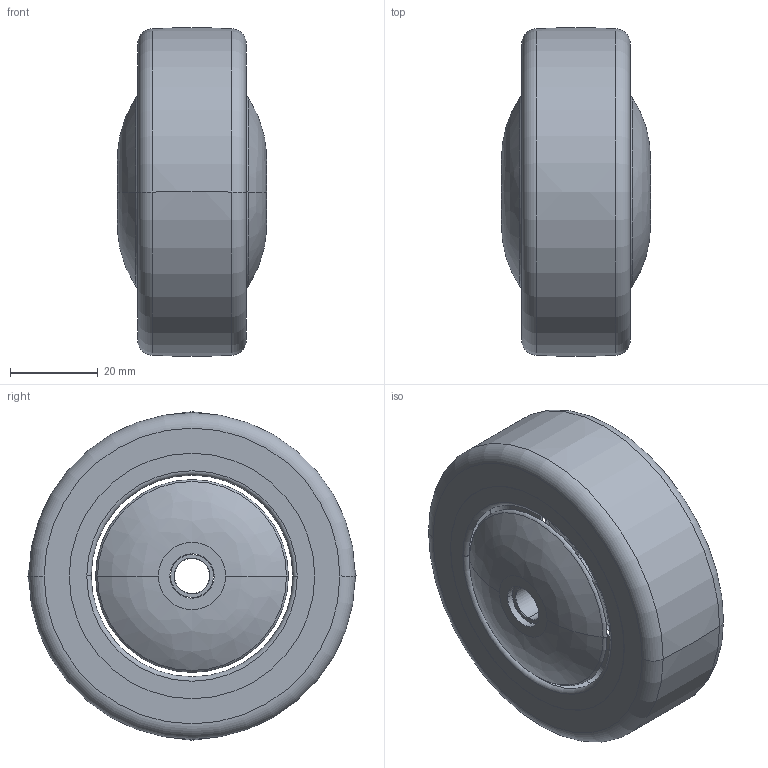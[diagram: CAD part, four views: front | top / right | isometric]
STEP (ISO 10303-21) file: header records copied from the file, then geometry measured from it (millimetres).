
FILE_DESCRIPTION((''),'2;1');
FILE_NAME('PRT0004','2025-09-26T09:05:26',('Administrator'),(''),'CREO PARAMETRIC BY PTC INC, 2022124','CREO PARAMETRIC BY PTC INC, 2022124','');
FILE_SCHEMA(('AUTOMOTIVE_DESIGN { 1 0 10303 214 1 1 1 1 }'));
Length unit declared in the file: millimetre
Products named in the file (1): PRT0004
Bounding box: 34 x 74.94 x 74.94 mm (x, y, z)
Surface area: 14812.2 mm2 (no closed solid volume)
Topology: 0 solids, 6 shells, 36 faces, 84 edges, 56 vertices
Faces by surface type: torus 12, plane 8, bspline 6, cylinder 6, cone 4
Entity records: 1613 total; most frequent: CARTESIAN_POINT 352, DIRECTION 241, ORIENTED_EDGE 144, AXIS2_PLACEMENT_3D 114, EDGE_CURVE 84, CIRCLE 74, VERTEX_POINT 56, EDGE_LOOP 44
